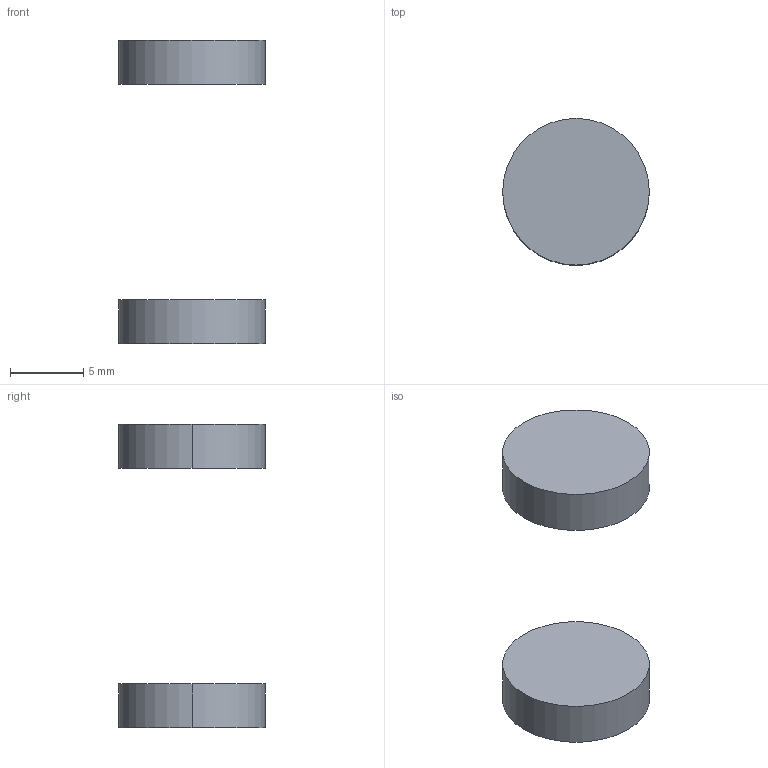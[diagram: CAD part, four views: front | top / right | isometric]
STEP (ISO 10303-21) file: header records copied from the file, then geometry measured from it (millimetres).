
FILE_DESCRIPTION((' '),'2;1');
FILE_NAME( '平凹镜设计（曲率半径1米，直径10mm，凹面镜反射部分直径5mm）.step', '2026-08-24T15:08:29', (' '), ('--- Datakit www.datakit.com---'), ' Datakit CrossCadWare V2026.1 Dec 30 2025', 'CrownCAD', ' ');
FILE_SCHEMA(('CONFIG_CONTROL_DESIGN'));
Length unit declared in the file: millimetre
Products named in the file (3): 1_1; 2_1; 平凹镜设计（曲率半径1米，直径10mm，凹面镜反射部分直径5mm）
Assembly tree (2 placements, depth 2):
  平凹镜设计（曲率半径1米，直径10mm，凹面镜反射部分直径5mm）
    1_1
    2_1
Bounding box: 10 x 10 x 20.69 mm (x, y, z)
Volume: 470.8 mm3; surface area: 502.5 mm2
Topology: 2 solids, 2 shells, 10 faces, 16 edges, 11 vertices
Faces by surface type: cylinder 4, plane 4, bspline 2
Entity records: 306 total; most frequent: CARTESIAN_POINT 58, DIRECTION 54, ORIENTED_EDGE 32, AXIS2_PLACEMENT_3D 25, EDGE_CURVE 16, CIRCLE 12, VERTEX_POINT 11, EDGE_LOOP 11
